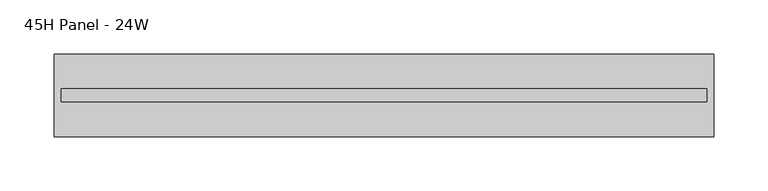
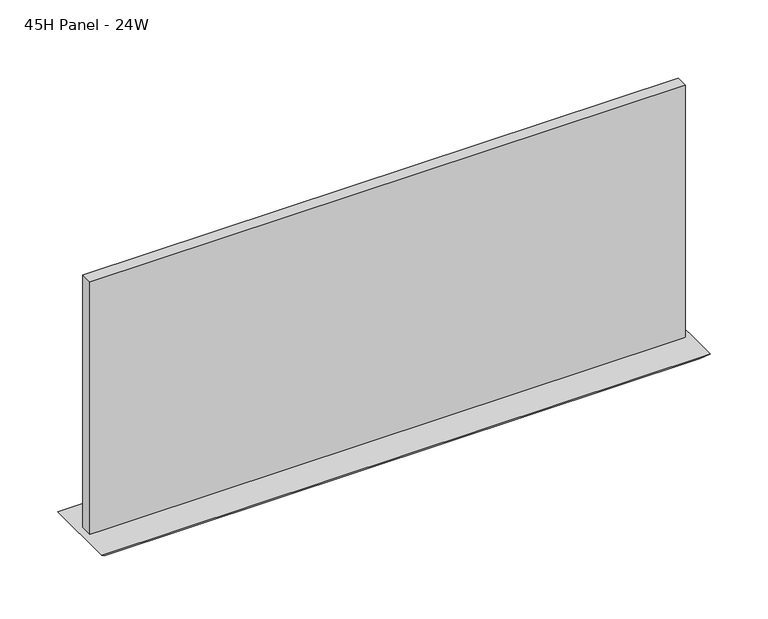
"""IFC4 building model written with IfcOpenShell, lengths in millimetres: furniture geometry, Steelcase - Montage - Tiles - 10H - Frameless Glass Stacker : 45H Panel - 24W."""

import ifcopenshell
import ifcopenshell.guid

model = None  # the IFC model being written
_history = None  # IfcOwnerHistory: only IFC2X3 demands one
_inside = {}  # id of a spatial element -> (the spatial element, [elements in it])
_under = {}  # id of a project, library or spatial element -> (it, [spatial elements below it])
_declared = {}  # id of a project -> (the project, [libraries it declares])
_typed = {}  # id of a type object -> (the type object, [elements of that type])
_made_of = {}  # id of a material, layer set ... -> (it, [elements and type objects made of it])


def new_model(schema):
    """Start an empty IFC model of exactly this schema.

    Asked for "IFC4X3", IfcOpenShell would pick the latest addendum, in which some entities
    have other attributes; the version numbers below select the first issue.
    IFC2X3 requires an IfcOwnerHistory on every rooted entity: one is made here for all.
    """
    global model, _history
    if schema == "IFC4X3":
        model = ifcopenshell.file(schema_version=(4, 3, 0, 0))
    else:
        model = ifcopenshell.file(schema=schema)
    _inside.clear()
    _under.clear()
    _declared.clear()
    _typed.clear()
    _made_of.clear()
    _history = None
    if model.schema == "IFC2X3":
        org = make("IfcOrganization", Name="unknown")
        user = make(
            "IfcPersonAndOrganization",
            ThePerson=make("IfcPerson", FamilyName="unknown"),
            TheOrganization=org,
        )
        app = make(
            "IfcApplication",
            ApplicationDeveloper=org,
            Version="unknown",
            ApplicationFullName="unknown",
            ApplicationIdentifier="unknown",
        )
        _history = make(
            "IfcOwnerHistory",
            OwningUser=user,
            OwningApplication=app,
            ChangeAction="ADDED",
            CreationDate=0,
        )
    return model


def make(cls, **values):
    """One entity of the class cls with the attributes given. An attribute that is None is left unset."""
    return model.create_entity(
        cls, **{name: value for name, value in values.items() if value is not None}
    )


def rooted(cls, **values):
    """An entity with a GlobalId (a new one), such as an element, a storey or a relation."""
    return make(cls, GlobalId=ifcopenshell.guid.new(), OwnerHistory=_history, **values)


def si_unit(unit_type, name, prefix=None):
    """IfcSIUnit, for example si_unit("LENGTHUNIT", "METRE", prefix="MILLI")."""
    return make("IfcSIUnit", UnitType=unit_type, Prefix=prefix, Name=name)


def assignment(units):
    """IfcUnitAssignment: the units of a project."""
    return None if units is None else make("IfcUnitAssignment", Units=units)


def point(xyz):
    """IfcCartesianPoint."""
    return None if xyz is None else make("IfcCartesianPoint", Coordinates=xyz)


def direction(xyz):
    """IfcDirection."""
    return None if xyz is None else make("IfcDirection", DirectionRatios=xyz)


def frame(location, z_axis=None, x_axis=None):
    """IfcAxis2Placement3D, a coordinate frame: its origin and axes. An axis left out is left unset."""
    return make(
        "IfcAxis2Placement3D",
        Location=point(location),
        Axis=direction(z_axis),
        RefDirection=direction(x_axis),
    )


def origin():
    """The frame at (0, 0, 0) with its axes left unset."""
    return frame((0.0, 0.0, 0.0))


def place(relative_to, where):
    """IfcLocalPlacement: puts the frame where relative to a parent placement (None: the world)."""
    return make(
        "IfcLocalPlacement", PlacementRelTo=relative_to, RelativePlacement=where
    )


def context(
    kind, dimensions, precision=None, world=None, true_north=None, identifier=None
):
    """IfcGeometricRepresentationContext, for example the 3D "Model" context."""
    return make(
        "IfcGeometricRepresentationContext",
        ContextIdentifier=identifier,
        ContextType=kind,
        CoordinateSpaceDimension=dimensions,
        Precision=precision,
        WorldCoordinateSystem=world,
        TrueNorth=true_north,
    )


def project(units=None, contexts=None):
    """IfcProject with its units and contexts."""
    return rooted(
        "IfcProject",
        Name="project",
        RepresentationContexts=contexts,
        UnitsInContext=assignment(units),
    )


def spatial(cls, under=None, at=None, **own):
    """A site, building, storey or space (cls), placed at a placement, below another one or the project."""
    s = rooted(cls, ObjectPlacement=at, **own)
    if under is not None:
        _under.setdefault(under.id(), (under, []))[1].append(s)
    return s


def polyline(points):
    """IfcPolyline through the points."""
    return make("IfcPolyline", Points=[point(p) for p in points])


def outline(outer, holes=None, kind="AREA"):
    """IfcArbitraryClosedProfileDef: a profile drawn as a closed curve; with holes, ...WithVoids."""
    if holes is None:
        return make("IfcArbitraryClosedProfileDef", ProfileType=kind, OuterCurve=outer)
    return make(
        "IfcArbitraryProfileDefWithVoids",
        ProfileType=kind,
        OuterCurve=outer,
        InnerCurves=holes,
    )


def extrude(swept, where, along, depth):
    """IfcExtrudedAreaSolid: the profile swept, set in the frame where, extruded along a direction by depth."""
    return make(
        "IfcExtrudedAreaSolid",
        SweptArea=swept,
        Position=where,
        ExtrudedDirection=direction(along),
        Depth=depth,
    )


def faces_of(points, faces, orient=None, outer=None):
    """IfcFace entities. A face is a list of loops; a loop is a list of indices into points, from 0.

    orient and outer hold one flag for each loop. By default every Orientation is true, the
    first loop of a face is its IfcFaceOuterBound and the others are IfcFaceBound.
    """
    made = []
    for i, loops in enumerate(faces):
        bounds = []
        for j, loop in enumerate(loops):
            is_outer = j == 0 if outer is None else outer[i][j]
            bounds.append(
                make(
                    "IfcFaceOuterBound" if is_outer else "IfcFaceBound",
                    Bound=make("IfcPolyLoop", Polygon=[points[k] for k in loop]),
                    Orientation=True if orient is None else orient[i][j],
                )
            )
        made.append(make("IfcFace", Bounds=bounds))
    return made


def faceted_brep(points, faces, orient=None, outer=None, voids=None):
    """IfcFacetedBrep: a solid bounded by flat faces; with voids (closed shells), ...WithVoids."""
    shared = [point(p) for p in points]
    hull = make("IfcClosedShell", CfsFaces=faces_of(shared, faces, orient, outer))
    if voids is None:
        return make("IfcFacetedBrep", Outer=hull)
    return make(
        "IfcFacetedBrepWithVoids",
        Outer=hull,
        Voids=[
            make(cls, CfsFaces=faces_of(shared, fs, o, b)) for cls, fs, o, b in voids
        ],
    )


def shape(context_of_items, identifier, shape_type, items):
    """IfcShapeRepresentation: the items that make up one representation, for example the "Body"."""
    return make(
        "IfcShapeRepresentation",
        ContextOfItems=context_of_items,
        RepresentationIdentifier=identifier,
        RepresentationType=shape_type,
        Items=items,
    )


def source(mapping_origin, context_of_items, identifier, shape_type, items):
    """IfcRepresentationMap: a shape defined once, which mapped items show again and again."""
    return make(
        "IfcRepresentationMap",
        MappingOrigin=mapping_origin,
        MappedRepresentation=shape(context_of_items, identifier, shape_type, items),
    )


def transform(
    local_origin,
    x_axis=None,
    y_axis=None,
    z_axis=None,
    scale=None,
    scale2=None,
    scale3=None,
    uniform=True,
):
    """IfcCartesianTransformationOperator3D, or its non-uniform kind. x_axis, y_axis, z_axis: its Axis1, 2, 3."""
    if uniform:
        return make(
            "IfcCartesianTransformationOperator3D",
            Axis1=direction(x_axis),
            Axis2=direction(y_axis),
            LocalOrigin=point(local_origin),
            Scale=scale,
            Axis3=direction(z_axis),
        )
    return make(
        "IfcCartesianTransformationOperator3DnonUniform",
        Axis1=direction(x_axis),
        Axis2=direction(y_axis),
        LocalOrigin=point(local_origin),
        Scale=scale,
        Axis3=direction(z_axis),
        Scale2=scale2,
        Scale3=scale3,
    )


def mapped(mapping_source, mapping_target):
    """IfcMappedItem: shows the shape of a source again, moved by a transform."""
    return make(
        "IfcMappedItem", MappingSource=mapping_source, MappingTarget=mapping_target
    )


def made_of(thing, what):
    """Note that an element or type object is made of a material, layer set ...; save() writes the relation."""
    if what is not None:
        _made_of.setdefault(what.id(), (what, []))[1].append(thing)
    return thing


def element(
    cls,
    number,
    at=None,
    inside=None,
    cuts=None,
    type_object=None,
    material=None,
    context=None,
    identifier="Body",
    shape_type=None,
    held_by="IfcProductDefinitionShape",
    body=None,
    shapes=None,
    **own,
):
    """One element of the class cls, such as IfcWall. Its Tag is "e" and its number.

    at: its placement. inside: the storey or other place that contains it. cuts: it is an
    opening in that element (IfcRelVoidsElement). A single representation is given by context,
    identifier, shape_type and body (its items); several are given by shapes. held_by: the class
    of the entity that holds the representations. save() writes the other relations.
    """
    e = rooted(cls, Tag="e%d" % number, ObjectPlacement=at, **own)
    if body is not None:
        shapes = [shape(context, identifier, shape_type, body)]
    if shapes is not None:
        e.Representation = make(held_by, Representations=shapes)
    if inside is not None:
        _inside.setdefault(inside.id(), (inside, []))[1].append(e)
    if cuts is not None:
        rooted(
            "IfcRelVoidsElement", RelatingBuildingElement=cuts, RelatedOpeningElement=e
        )
    if type_object is not None:
        _typed.setdefault(type_object.id(), (type_object, []))[1].append(e)
    return made_of(e, material)


def aggregate(whole, parts):
    """IfcRelAggregates: a whole, such as a stair, and the parts it consists of."""
    return rooted("IfcRelAggregates", RelatingObject=whole, RelatedObjects=parts)


def save(model, path):
    """Write the relations noted so far, then the file.

    IfcRelAggregates (storeys below a building ...), IfcRelContainedInSpatialStructure (elements
    in a storey), IfcRelDefinesByType, IfcRelAssociatesMaterial and IfcRelDeclares: one each for
    every whole, place, type object, material and project.
    """
    for whole, parts in _under.values():
        aggregate(whole, parts)
    for where, things in _inside.values():
        rooted(
            "IfcRelContainedInSpatialStructure",
            RelatedElements=things,
            RelatingStructure=where,
        )
    for kind, things in _typed.values():
        rooted("IfcRelDefinesByType", RelatedObjects=things, RelatingType=kind)
    for what, things in _made_of.values():
        rooted("IfcRelAssociatesMaterial", RelatedObjects=things, RelatingMaterial=what)
    for by, libraries in _declared.values():
        rooted("IfcRelDeclares", RelatingContext=by, RelatedDefinitions=libraries)
    model.write(path)


def furniture_45h_panel_24w_3a8b640c(model_context):
    return source(origin(), model_context, "Body", "SolidModel", [
        faceted_brep([(609.6, -38.1000015, 1136.65), (0.0, -38.1000015, 1136.65), (6.35, -31.7500015, 1130.3), (603.25, -31.7500015, 1130.3), (6.35, 31.7500015, 1130.3), (603.25, 31.7500015, 1130.3), (0.0, 38.1000015, 1136.65), (609.6, 38.1000015, 1136.65)], [[[0, 1, 2, 3]], [[3, 2, 4, 5]], [[6, 7, 5, 4]], [[1, 0, 7, 6]], [[2, 1, 6, 4]], [[0, 3, 5, 7]]]),
        extrude(outline(polyline([(602.8181828, -5.9944001), (6.7818001, -5.9944001), (6.7818001, 5.9944008), (602.8181828, 5.9944008), (602.8181828, -5.9944001)])), frame((0.0, 0.0, 1136.65), z_axis=(0.0, 0.0, 1.0), x_axis=(1.0, 0.0, 0.0)), (0.0, 0.0, 1.0), 267.7160475),
    ])


if __name__ == "__main__":
    model = new_model("IFC4")
    model_context = context("Model", 3, world=origin())
    ifc_project = project(units=[si_unit("LENGTHUNIT", "METRE", prefix="MILLI")], contexts=[model_context])
    site = spatial("IfcSite", under=ifc_project)
    building = spatial("IfcBuilding", under=site)
    placement = place(None, origin())
    furniture_45h_panel_24w_shape = furniture_45h_panel_24w_3a8b640c(model_context)
    element("IfcFurniture", 1, ObjectType="Steelcase - Montage - Tiles - 10H - Frameless Glass Stacker : 45H Panel - 24W", at=placement, inside=building, context=model_context, shape_type="MappedRepresentation", body=[
        mapped(furniture_45h_panel_24w_shape, transform((0.0, 0.0, 0.0), x_axis=(1.0, 0.0, 0.0), y_axis=(0.0, 1.0, 0.0), z_axis=(0.0, 0.0, 1.0))),
    ])
    save(model, "model.ifc")
